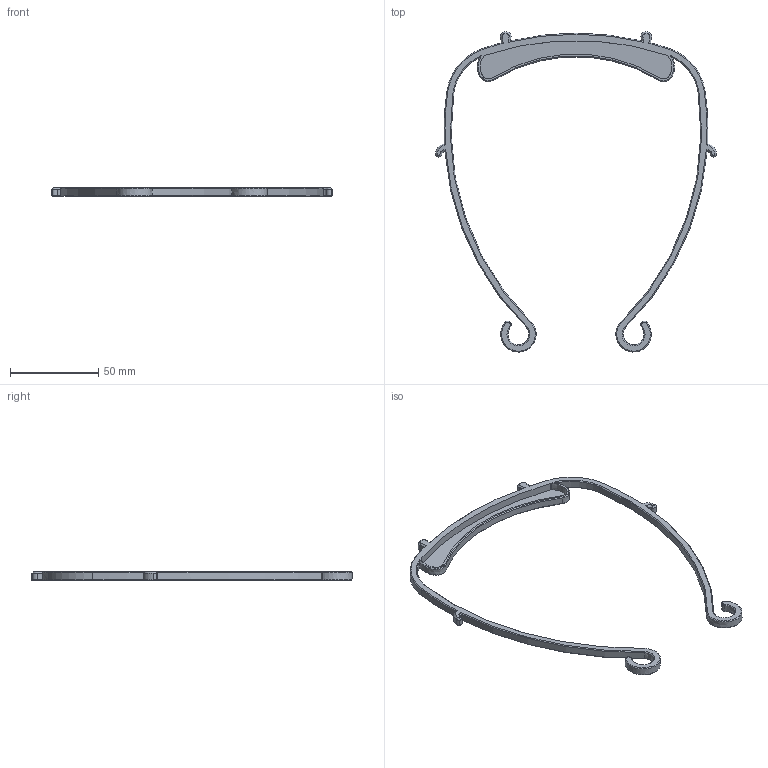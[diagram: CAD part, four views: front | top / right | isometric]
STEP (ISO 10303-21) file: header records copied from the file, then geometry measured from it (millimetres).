
FILE_DESCRIPTION((''),'2;1');
FILE_NAME('VERKSTAN_A4_S','2020-04-07T20:29:49',('Jason'),(''),'CREO PARAMETRIC BY PTC INC, 2019224','CREO PARAMETRIC BY PTC INC, 2019224','');
FILE_SCHEMA(('CONFIG_CONTROL_DESIGN'));
Length unit declared in the file: millimetre
Products named in the file (1): VERKSTAN_A4_S
Bounding box: 159.26 x 181.34 x 5 mm (x, y, z)
Volume: 12605.7 mm3; surface area: 13194.6 mm2
Topology: 1 solids, 1 shells, 136 faces, 329 edges, 196 vertices
Faces by surface type: cone 54, cylinder 32, plane 30, bspline 12, extrusion 8
Entity records: 5837 total; most frequent: CARTESIAN_POINT 2733, ORIENTED_EDGE 658, DIRECTION 611, EDGE_CURVE 329, AXIS2_PLACEMENT_3D 230, VERTEX_POINT 196, VECTOR 151, LINE 143
